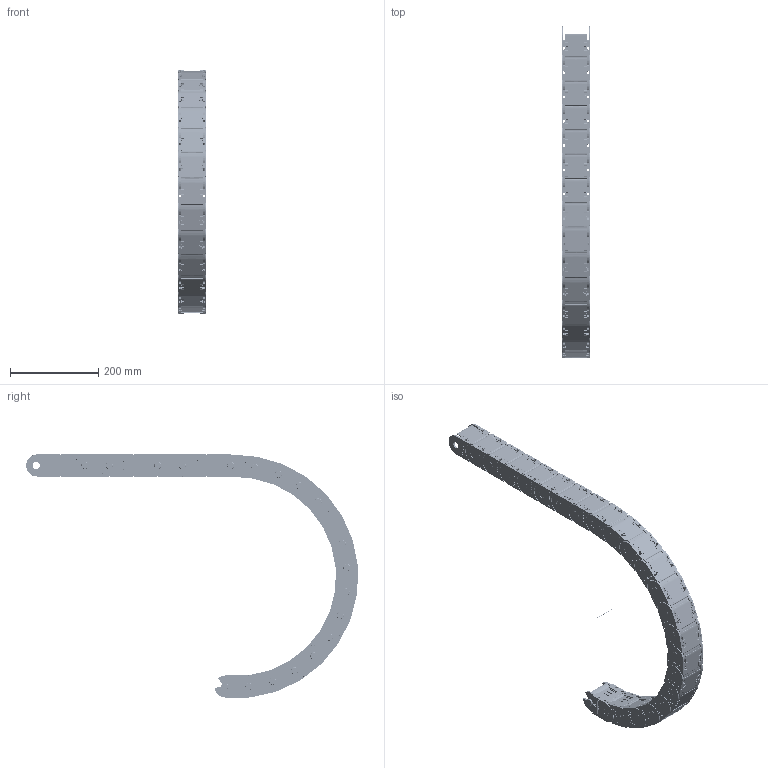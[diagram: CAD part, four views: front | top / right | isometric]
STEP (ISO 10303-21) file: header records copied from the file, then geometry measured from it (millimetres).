
FILE_DESCRIPTION((''),'2;1');
FILE_NAME('C:\Uebbing\PARAMETERKETTEN\KOLIBRI\Kol_50_065_5\Kol 50_065_5_R200.stp','2012-03-05T14:35:19',('Uebbing'),(''),'Autodesk Inventor 10','Autodesk Inventor 10','');
FILE_SCHEMA(('AUTOMOTIVE_DESIGN { 1 0 10303 214 1 1 1 1 }'));
Length unit declared in the file: millimetre
Products named in the file (6): KOLIBRI 50_065_5_PARAMETRISCH; Achse; Kol 50_065_5; Kol_50_065_5_Klappdeckel; Kol_50_065_5; Stecksteg PZG 50
Assembly tree (27 placements, depth 3):
  KOLIBRI 50_065_5_PARAMETRISCH
    Achse
    Kol 50_065_5  x23
      Kol_50_065_5_Klappdeckel
      Kol_50_065_5
      Stecksteg PZG 50
Bounding box: 65 x 750.66 x 550 mm (x, y, z)
Volume: 1286061.8 mm3; surface area: 916153 mm2
Topology: 70 solids, 70 shells, 15620 faces, 42439 edges, 27419 vertices
Faces by surface type: plane 8029, cylinder 3773, bspline 3404, sphere 230, cone 138, torus 46
Full cylindrical faces by diameter (mm): 1 x1, 2.011 x23, 3.531 x23, 4 x138, 6 x23, 8 x46, 16 x46
Entity records: 22518 total; most frequent: CARTESIAN_POINT 5334, ORIENTED_EDGE 3608, DIRECTION 3371, EDGE_CURVE 1804, VECTOR 1331, LINE 1331, VERTEX_POINT 1184, AXIS2_PLACEMENT_3D 1020
